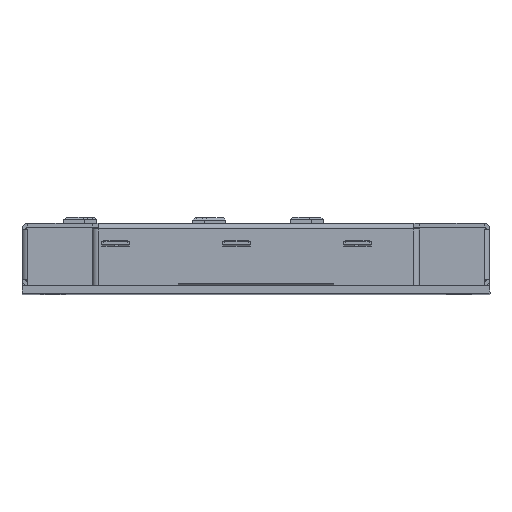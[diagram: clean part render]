
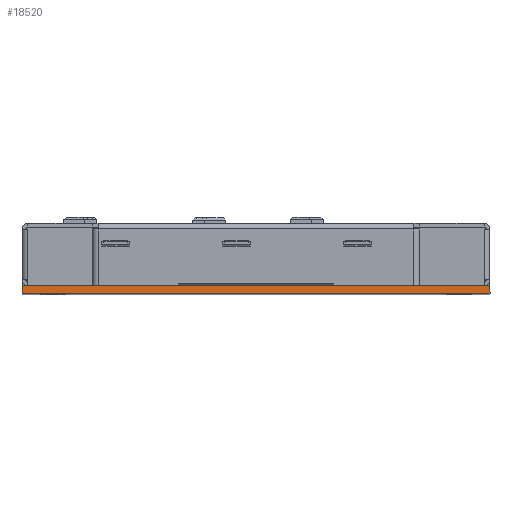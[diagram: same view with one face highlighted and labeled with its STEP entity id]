
A CAD part, top view. The second image highlights one B-rep face of the part: STEP entity #18520.
In plain terms, the highlighted planar face has unit normal (0, 0, 1).
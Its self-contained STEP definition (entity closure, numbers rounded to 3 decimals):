
#14011 = VERTEX_POINT ( 'NONE', #43742 ) ;
#14015 = EDGE_CURVE ( 'NONE', #14011, #14044, #43747, .T. ) ;
#14044 = VERTEX_POINT ( 'NONE', #44825 ) ;
#18253 = EDGE_CURVE ( 'NONE', #14011, #18496, #51760, .T. ) ;
#18267 = EDGE_CURVE ( 'NONE', #14044, #18491, #52199, .T. ) ;
#18491 = VERTEX_POINT ( 'NONE', #53077 ) ;
#18495 = EDGE_CURVE ( 'NONE', #18496, #18491, #53185, .T. ) ;
#18496 = VERTEX_POINT ( 'NONE', #53181 ) ;
#18520 = ADVANCED_FACE ( 'NONE', ( #53232 ), #53231, .F. ) ;
#18521 = EDGE_LOOP ( 'NONE', ( #18522, #18523, #18524, #18525 ) ) ;
#18522 = ORIENTED_EDGE ( 'NONE', *, *, #18495, .T. ) ;
#18523 = ORIENTED_EDGE ( 'NONE', *, *, #18267, .F. ) ;
#18524 = ORIENTED_EDGE ( 'NONE', *, *, #14015, .F. ) ;
#18525 = ORIENTED_EDGE ( 'NONE', *, *, #18253, .T. ) ;
#43742 = CARTESIAN_POINT ( 'NONE',  ( 0., -15., 0. ) ) ;
#43744 = DIRECTION ( 'NONE',  ( 1., 0., 0. ) ) ;
#43745 = VECTOR ( 'NONE', #43744, 1000. ) ;
#43746 = CARTESIAN_POINT ( 'NONE',  ( 120., -15., 0. ) ) ;
#43747 = LINE ( 'NONE', #43746, #43745 ) ;
#44825 = CARTESIAN_POINT ( 'NONE',  ( 120., -15., 0. ) ) ;
#51756 = DIRECTION ( 'NONE',  ( 0., -1., 0. ) ) ;
#51758 = VECTOR ( 'NONE', #51756, 1000. ) ;
#51759 = CARTESIAN_POINT ( 'NONE',  ( 0., -15., 0. ) ) ;
#51760 = LINE ( 'NONE', #51759, #51758 ) ;
#52193 = DIRECTION ( 'NONE',  ( 0., -1., 0. ) ) ;
#52194 = VECTOR ( 'NONE', #52193, 1000. ) ;
#52196 = CARTESIAN_POINT ( 'NONE',  ( 120., -15., 0. ) ) ;
#52199 = LINE ( 'NONE', #52196, #52194 ) ;
#53077 = CARTESIAN_POINT ( 'NONE',  ( 120., -17., 0. ) ) ;
#53181 = CARTESIAN_POINT ( 'NONE',  ( 0., -17., 0. ) ) ;
#53182 = DIRECTION ( 'NONE',  ( 1., 0., 0. ) ) ;
#53183 = VECTOR ( 'NONE', #53182, 1000. ) ;
#53184 = CARTESIAN_POINT ( 'NONE',  ( 120., -17., 0. ) ) ;
#53185 = LINE ( 'NONE', #53184, #53183 ) ;
#53223 = DIRECTION ( 'NONE',  ( 0., -1., 0. ) ) ;
#53224 = DIRECTION ( 'NONE',  ( 0., 0., -1. ) ) ;
#53226 = CARTESIAN_POINT ( 'NONE',  ( 120., -15., 0. ) ) ;
#53230 = AXIS2_PLACEMENT_3D ( 'NONE', #53226, #53224, #53223 ) ;
#53231 = PLANE ( 'NONE',  #53230 ) ;
#53232 = FACE_OUTER_BOUND ( 'NONE', #18521, .T. ) ;
